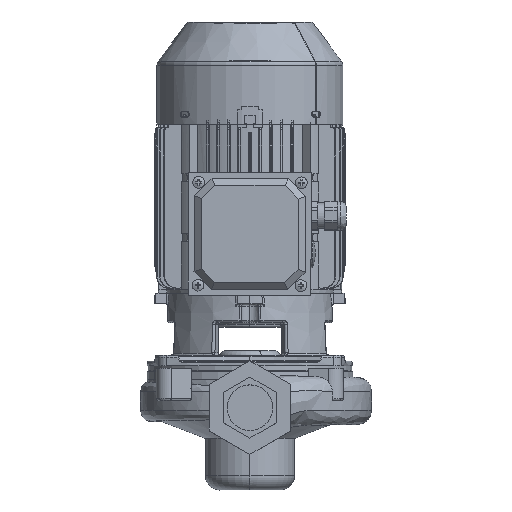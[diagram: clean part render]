
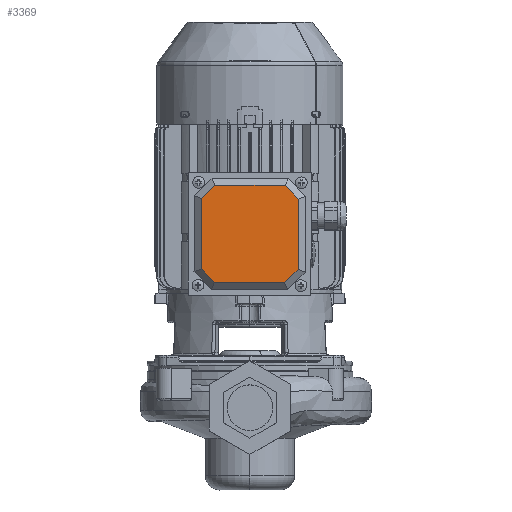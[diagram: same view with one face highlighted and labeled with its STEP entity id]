
A CAD part, top view. The second image highlights one B-rep face of the part: STEP entity #3369.
In plain terms, the highlighted planar face has unit normal (0, 0, 1) as drawn and (0, 1, 0) by its records, which use the part's own axes.
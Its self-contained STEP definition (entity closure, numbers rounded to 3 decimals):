
#3369=ADVANCED_FACE('NONE',(#9244),#9245,.F.);
#9244=FACE_OUTER_BOUND('',#18787,.T.);
#9245=PLANE('',#18788);
#18787=EDGE_LOOP('',(#26517,#26518,#26519,#26520,#26521,#26522,#26523,#26524));
#18788=AXIS2_PLACEMENT_3D('',#26525,#26526,#26527);
#26517=ORIENTED_EDGE('',*,*,#38480,.T.);
#26518=ORIENTED_EDGE('',*,*,#38481,.T.);
#26519=ORIENTED_EDGE('',*,*,#38482,.T.);
#26520=ORIENTED_EDGE('',*,*,#38483,.T.);
#26521=ORIENTED_EDGE('',*,*,#38484,.T.);
#26522=ORIENTED_EDGE('',*,*,#38485,.T.);
#26523=ORIENTED_EDGE('',*,*,#38486,.T.);
#26524=ORIENTED_EDGE('',*,*,#38487,.T.);
#26525=CARTESIAN_POINT('',(0.0,12.0,0.0));
#26526=DIRECTION('',(0.0,-1.0,0.0));
#26527=DIRECTION('',(0.0,0.0,-1.0));
#38480=EDGE_CURVE('NONE',#47453,#47454,#47455,.T.);
#38481=EDGE_CURVE('NONE',#47454,#47456,#47457,.T.);
#38482=EDGE_CURVE('NONE',#47456,#47458,#47459,.T.);
#38483=EDGE_CURVE('NONE',#47458,#47460,#47461,.T.);
#38484=EDGE_CURVE('NONE',#47460,#47462,#47463,.T.);
#38485=EDGE_CURVE('NONE',#47462,#47464,#47465,.T.);
#38486=EDGE_CURVE('NONE',#47464,#47466,#47467,.T.);
#38487=EDGE_CURVE('NONE',#47466,#47453,#47468,.T.);
#47453=VERTEX_POINT('NONE',#58371);
#47454=VERTEX_POINT('NONE',#58372);
#47455=LINE('',#58373,#58374);
#47456=VERTEX_POINT('NONE',#58375);
#47457=LINE('',#58376,#58377);
#47458=VERTEX_POINT('NONE',#58378);
#47459=LINE('',#58379,#58380);
#47460=VERTEX_POINT('NONE',#58381);
#47461=LINE('',#58382,#58383);
#47462=VERTEX_POINT('NONE',#58384);
#47463=LINE('',#58385,#58386);
#47464=VERTEX_POINT('NONE',#58387);
#47465=LINE('',#58388,#58389);
#47466=VERTEX_POINT('NONE',#58390);
#47467=LINE('',#58391,#58392);
#47468=LINE('',#58393,#58394);
#58371=CARTESIAN_POINT('',(-30.015,12.0,-41.5));
#58372=CARTESIAN_POINT('',(-41.5,12.0,-30.015));
#58373=CARTESIAN_POINT('',(-35.757,12.0,-35.757));
#58374=VECTOR('',#73490,1000.0);
#58375=CARTESIAN_POINT('',(-41.5,12.0,30.015));
#58376=CARTESIAN_POINT('',(-41.5,12.0,0.0));
#58377=VECTOR('',#73491,1000.0);
#58378=CARTESIAN_POINT('',(-30.015,12.0,41.5));
#58379=CARTESIAN_POINT('',(-28.257,12.0,43.257));
#58380=VECTOR('',#73492,1000.0);
#58381=CARTESIAN_POINT('',(30.015,12.0,41.5));
#58382=CARTESIAN_POINT('',(32.5,12.0,41.5));
#58383=VECTOR('',#73493,1000.0);
#58384=CARTESIAN_POINT('',(41.5,12.0,30.015));
#58385=CARTESIAN_POINT('',(35.757,12.0,35.757));
#58386=VECTOR('',#73494,1000.0);
#58387=CARTESIAN_POINT('',(41.5,12.0,-30.015));
#58388=CARTESIAN_POINT('',(41.5,12.0,-32.5));
#58389=VECTOR('',#73495,1000.0);
#58390=CARTESIAN_POINT('',(30.015,12.0,-41.5));
#58391=CARTESIAN_POINT('',(28.257,12.0,-43.257));
#58392=VECTOR('',#73496,1000.0);
#58393=CARTESIAN_POINT('',(0.0,12.0,-41.5));
#58394=VECTOR('',#73497,1000.0);
#73490=DIRECTION('',(-0.707,0.0,0.707));
#73491=DIRECTION('',(0.0,0.0,1.0));
#73492=DIRECTION('',(0.707,0.0,0.707));
#73493=DIRECTION('',(1.0,0.0,0.0));
#73494=DIRECTION('',(0.707,0.0,-0.707));
#73495=DIRECTION('',(0.0,0.0,-1.0));
#73496=DIRECTION('',(-0.707,0.0,-0.707));
#73497=DIRECTION('',(-1.0,0.0,0.0));
